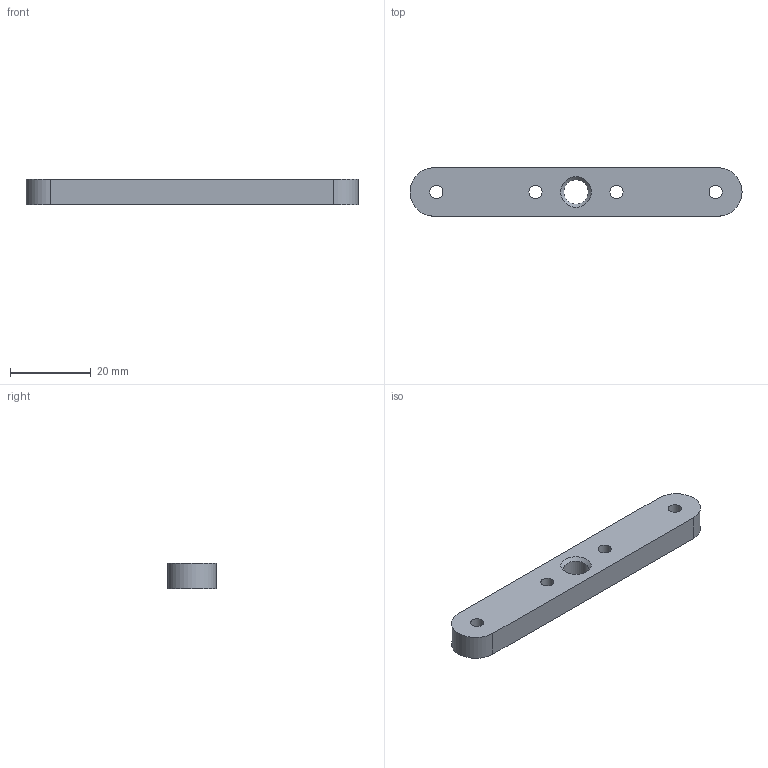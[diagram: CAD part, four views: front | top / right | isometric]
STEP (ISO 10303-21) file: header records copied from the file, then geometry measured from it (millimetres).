
FILE_DESCRIPTION(/* description */ ('Insert Bottom Flex Jig Basebody'),/* implementation_level */ '2;1');
FILE_NAME(/* name */ 'Z:\Werkstatt Server\Projekte\Atlas\Entwicklung u. Konstruktion\Konstruktion\CAD Daten\ITkPixToolV2.0\CAD_Drawings\Individual Parts\Flex Jig\ITPTv2.02.00.11.stp',/* time_stamp */ '2022-07-11T15:25:11+02:00',/* author */ ('Tim Kanngießer'),/* organization */ (''),/* preprocessor_version */ 'ST-DEVELOPER v19',/* originating_system */ 'Autodesk Inventor 2023',/* authorisation */ '');
FILE_SCHEMA (('AUTOMOTIVE_DESIGN { 1 0 10303 214 3 1 1 }'));
Length unit declared in the file: millimetre
Products named in the file (1): ITPTv2.02.00.11
Bounding box: 82 x 12 x 6.3 mm (x, y, z)
Volume: 5611.8 mm3; surface area: 3270.5 mm2
Topology: 1 solids, 1 shells, 12 faces, 30 edges, 20 vertices
Faces by surface type: cylinder 7, plane 4, cone 1
Full cylindrical faces by diameter (mm): 3.242 x4, 6 x1
Entity records: 433 total; most frequent: DIRECTION 72, CARTESIAN_POINT 63, ORIENTED_EDGE 60, EDGE_CURVE 30, AXIS2_PLACEMENT_3D 29, EDGE_LOOP 22, VERTEX_POINT 20, CIRCLE 16
